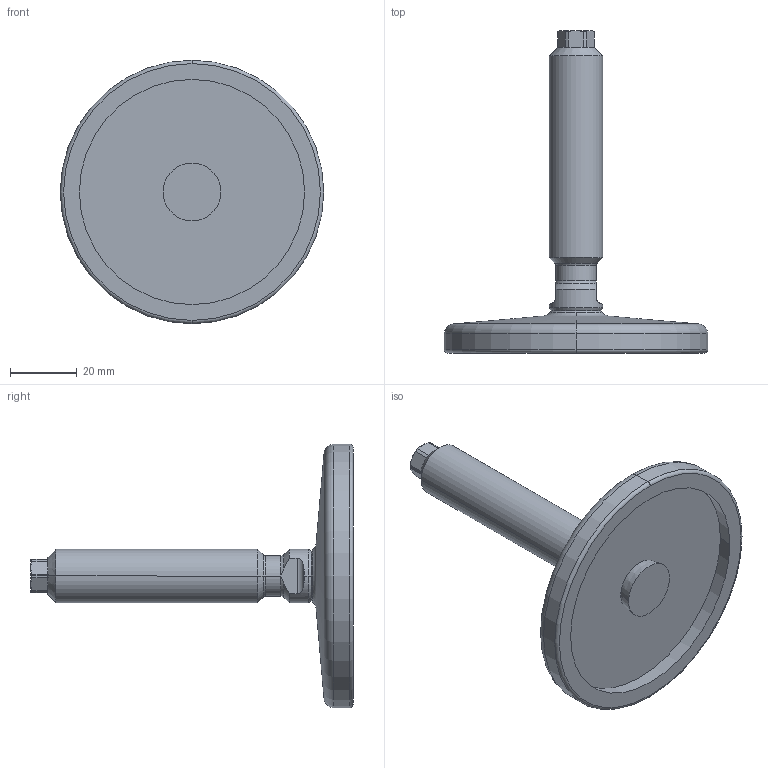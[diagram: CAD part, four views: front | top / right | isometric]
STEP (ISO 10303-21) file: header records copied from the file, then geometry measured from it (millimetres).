
FILE_DESCRIPTION (( 'STEP AP214' ), '1' );
FILE_NAME ('21-80-M16-75-D0-V.step', '2020-10-02T17:35:45', ( '' ), ( '' ), 'SwSTEP 2.0', 'SolidWorks 2019', '' );
FILE_SCHEMA (( 'AUTOMOTIVE_DESIGN' ));
Length unit declared in the file: millimetre
Products named in the file (3): 21-80-M16-75-D0-V; WB21_Fußteller 21^WB21_V_D0-080-R10-B7 (M8 M10_M12_M16); WB21_Spindel_V^WB21_V_M16-75
Assembly tree (2 placements, depth 2):
  21-80-M16-75-D0-V
    WB21_Fußteller 21^WB21_V_D0-080-R10-B7 (M8 M10_M12_M16)
    WB21_Spindel_V^WB21_V_M16-75
Bounding box: 79 x 96.64 x 79 mm (x, y, z)
Volume: 46966.4 mm3; surface area: 17663.3 mm2
Topology: 2 solids, 2 shells, 79 faces, 177 edges, 105 vertices
Faces by surface type: cylinder 23, cone 21, plane 21, torus 10, sphere 4
Entity records: 2438 total; most frequent: CARTESIAN_POINT 522, DIRECTION 406, ORIENTED_EDGE 354, EDGE_CURVE 177, AXIS2_PLACEMENT_3D 173, VERTEX_POINT 105, CIRCLE 89, EDGE_LOOP 82
